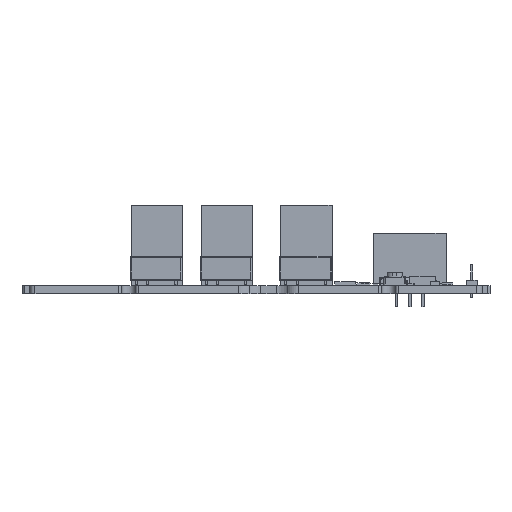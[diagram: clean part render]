
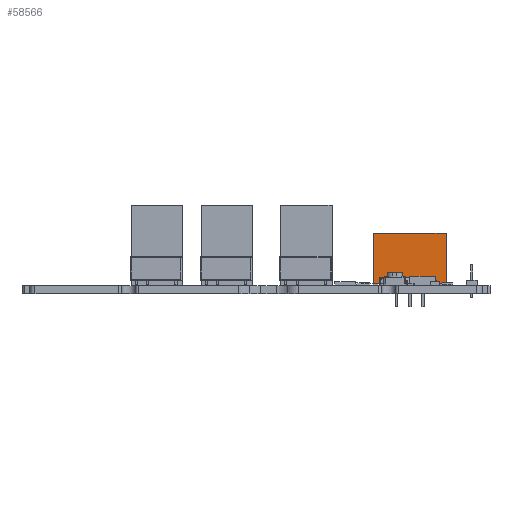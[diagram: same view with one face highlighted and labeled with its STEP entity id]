
A CAD part, front view. The second image highlights one B-rep face of the part: STEP entity #58566.
In plain terms, the highlighted planar face has unit normal (0, -1, 0).
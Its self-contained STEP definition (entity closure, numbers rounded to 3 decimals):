
#58491 = VERTEX_POINT('',#58492);
#58492 = CARTESIAN_POINT('',(80.56,58.09,
    0.));
#58509 = VERTEX_POINT('',#58510);
#58510 = CARTESIAN_POINT('',(81.06,58.09,
    0.));
#58516 = EDGE_CURVE('',#58491,#58509,#58517,.T.);
#58517 = LINE('',#58518,#58519);
#58518 = CARTESIAN_POINT('',(81.06,58.09,
    0.));
#58519 = VECTOR('',#58520,1.);
#58520 = DIRECTION('',(1.,0.,0.));
#58533 = VERTEX_POINT('',#58534);
#58534 = CARTESIAN_POINT('',(67.06,58.09,
    0.));
#58540 = EDGE_CURVE('',#58541,#58533,#58543,.T.);
#58541 = VERTEX_POINT('',#58542);
#58542 = CARTESIAN_POINT('',(67.06,58.09,
    10.1));
#58543 = LINE('',#58544,#58545);
#58544 = CARTESIAN_POINT('',(67.06,58.09,
    10.1));
#58545 = VECTOR('',#58546,1.);
#58546 = DIRECTION('',(0.,0.,-1.));
#58566 = ADVANCED_FACE('',(#58567),#58615,.F.);
#58567 = FACE_BOUND('',#58568,.T.);
#58568 = EDGE_LOOP('',(#58569,#58579,#58585,#58586,#58594,#58600,#58601,
    #58609));
#58569 = ORIENTED_EDGE('',*,*,#58570,.T.);
#58570 = EDGE_CURVE('',#58571,#58573,#58575,.T.);
#58571 = VERTEX_POINT('',#58572);
#58572 = CARTESIAN_POINT('',(67.56,58.09,
    0.5));
#58573 = VERTEX_POINT('',#58574);
#58574 = CARTESIAN_POINT('',(80.56,58.09,
    0.5));
#58575 = LINE('',#58576,#58577);
#58576 = CARTESIAN_POINT('',(80.56,58.09,
    0.5));
#58577 = VECTOR('',#58578,1.);
#58578 = DIRECTION('',(1.,0.,0.));
#58579 = ORIENTED_EDGE('',*,*,#58580,.T.);
#58580 = EDGE_CURVE('',#58573,#58491,#58581,.T.);
#58581 = LINE('',#58582,#58583);
#58582 = CARTESIAN_POINT('',(80.56,58.09,
    0.));
#58583 = VECTOR('',#58584,1.);
#58584 = DIRECTION('',(0.,0.,-1.));
#58585 = ORIENTED_EDGE('',*,*,#58516,.T.);
#58586 = ORIENTED_EDGE('',*,*,#58587,.F.);
#58587 = EDGE_CURVE('',#58588,#58509,#58590,.T.);
#58588 = VERTEX_POINT('',#58589);
#58589 = CARTESIAN_POINT('',(81.06,58.09,
    10.1));
#58590 = LINE('',#58591,#58592);
#58591 = CARTESIAN_POINT('',(81.06,58.09,
    10.1));
#58592 = VECTOR('',#58593,1.);
#58593 = DIRECTION('',(0.,0.,-1.));
#58594 = ORIENTED_EDGE('',*,*,#58595,.F.);
#58595 = EDGE_CURVE('',#58541,#58588,#58596,.T.);
#58596 = LINE('',#58597,#58598);
#58597 = CARTESIAN_POINT('',(81.06,58.09,
    10.1));
#58598 = VECTOR('',#58599,1.);
#58599 = DIRECTION('',(1.,0.,0.));
#58600 = ORIENTED_EDGE('',*,*,#58540,.T.);
#58601 = ORIENTED_EDGE('',*,*,#58602,.T.);
#58602 = EDGE_CURVE('',#58533,#58603,#58605,.T.);
#58603 = VERTEX_POINT('',#58604);
#58604 = CARTESIAN_POINT('',(67.56,58.09,
    0.));
#58605 = LINE('',#58606,#58607);
#58606 = CARTESIAN_POINT('',(81.06,58.09,
    0.));
#58607 = VECTOR('',#58608,1.);
#58608 = DIRECTION('',(1.,0.,0.));
#58609 = ORIENTED_EDGE('',*,*,#58610,.T.);
#58610 = EDGE_CURVE('',#58603,#58571,#58611,.T.);
#58611 = LINE('',#58612,#58613);
#58612 = CARTESIAN_POINT('',(67.56,58.09,
    0.));
#58613 = VECTOR('',#58614,1.);
#58614 = DIRECTION('',(0.,0.,1.));
#58615 = PLANE('',#58616);
#58616 = AXIS2_PLACEMENT_3D('',#58617,#58618,#58619);
#58617 = CARTESIAN_POINT('',(81.06,58.09,
    10.1));
#58618 = DIRECTION('',(0.,1.,0.));
#58619 = DIRECTION('',(-1.,0.,0.));
